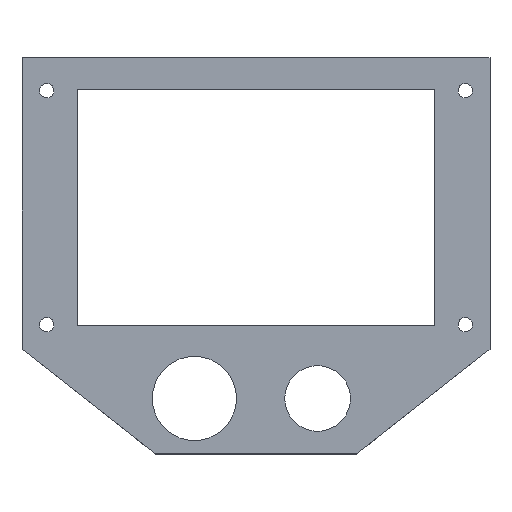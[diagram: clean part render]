
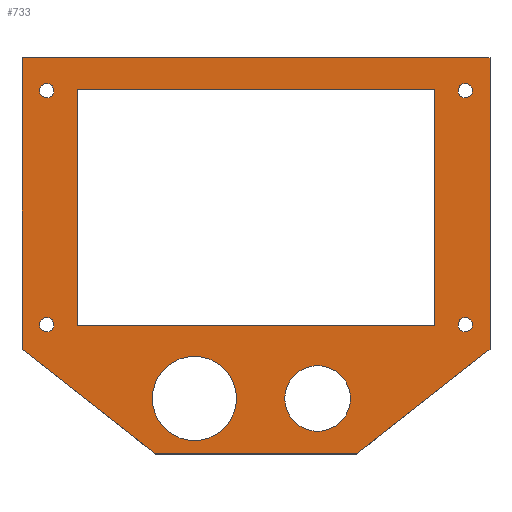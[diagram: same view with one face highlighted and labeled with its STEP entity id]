
A CAD part, top view. The second image highlights one B-rep face of the part: STEP entity #733.
In plain terms, the highlighted planar face has unit normal (0, 0, 1).
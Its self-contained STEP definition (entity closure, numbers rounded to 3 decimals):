
#41=FACE_BOUND('',#153,.T.);
#42=FACE_BOUND('',#154,.T.);
#43=FACE_BOUND('',#155,.T.);
#44=FACE_BOUND('',#156,.T.);
#45=FACE_BOUND('',#157,.T.);
#46=FACE_BOUND('',#158,.T.);
#47=FACE_BOUND('',#159,.T.);
#49=CIRCLE('',#758,10.25);
#51=CIRCLE('',#761,8.);
#56=CIRCLE('',#773,1.75);
#57=CIRCLE('',#775,1.75);
#58=CIRCLE('',#777,1.75);
#59=CIRCLE('',#779,1.75);
#103=FACE_OUTER_BOUND('',#152,.T.);
#152=EDGE_LOOP('',(#652,#653,#654,#655,#656,#657));
#153=EDGE_LOOP('',(#658));
#154=EDGE_LOOP('',(#659));
#155=EDGE_LOOP('',(#660,#661,#662,#663));
#156=EDGE_LOOP('',(#664));
#157=EDGE_LOOP('',(#665));
#158=EDGE_LOOP('',(#666));
#159=EDGE_LOOP('',(#667));
#186=LINE('',#1030,#270);
#190=LINE('',#1038,#274);
#219=LINE('',#1103,#303);
#228=LINE('',#1130,#312);
#231=LINE('',#1135,#315);
#233=LINE('',#1139,#317);
#234=LINE('',#1141,#318);
#236=LINE('',#1157,#320);
#237=LINE('',#1160,#321);
#239=LINE('',#1163,#323);
#270=VECTOR('',#832,10.);
#274=VECTOR('',#838,10.);
#303=VECTOR('',#901,10.);
#312=VECTOR('',#922,10.);
#315=VECTOR('',#927,10.);
#317=VECTOR('',#931,10.);
#318=VECTOR('',#934,10.);
#320=VECTOR('',#954,10.);
#321=VECTOR('',#957,10.);
#323=VECTOR('',#961,10.);
#348=VERTEX_POINT('',#1028);
#349=VERTEX_POINT('',#1029);
#351=VERTEX_POINT('',#1036);
#352=VERTEX_POINT('',#1037);
#369=VERTEX_POINT('',#1095);
#371=VERTEX_POINT('',#1100);
#382=VERTEX_POINT('',#1127);
#383=VERTEX_POINT('',#1129);
#384=VERTEX_POINT('',#1133);
#385=VERTEX_POINT('',#1137);
#386=VERTEX_POINT('',#1143);
#387=VERTEX_POINT('',#1146);
#388=VERTEX_POINT('',#1149);
#389=VERTEX_POINT('',#1152);
#390=VERTEX_POINT('',#1155);
#391=VERTEX_POINT('',#1159);
#418=EDGE_CURVE('',#348,#349,#186,.T.);
#422=EDGE_CURVE('',#351,#352,#190,.T.);
#452=EDGE_CURVE('',#369,#369,#49,.T.);
#454=EDGE_CURVE('',#371,#371,#51,.T.);
#455=EDGE_CURVE('',#352,#348,#219,.T.);
#468=EDGE_CURVE('',#383,#382,#228,.T.);
#471=EDGE_CURVE('',#382,#384,#231,.T.);
#473=EDGE_CURVE('',#384,#385,#233,.T.);
#474=EDGE_CURVE('',#385,#383,#234,.T.);
#475=EDGE_CURVE('',#386,#386,#56,.T.);
#476=EDGE_CURVE('',#387,#387,#57,.T.);
#477=EDGE_CURVE('',#388,#388,#58,.T.);
#478=EDGE_CURVE('',#389,#389,#59,.T.);
#480=EDGE_CURVE('',#349,#390,#236,.T.);
#481=EDGE_CURVE('',#391,#351,#237,.T.);
#483=EDGE_CURVE('',#390,#391,#239,.T.);
#652=ORIENTED_EDGE('',*,*,#483,.T.);
#653=ORIENTED_EDGE('',*,*,#481,.T.);
#654=ORIENTED_EDGE('',*,*,#422,.T.);
#655=ORIENTED_EDGE('',*,*,#455,.T.);
#656=ORIENTED_EDGE('',*,*,#418,.T.);
#657=ORIENTED_EDGE('',*,*,#480,.T.);
#658=ORIENTED_EDGE('',*,*,#454,.T.);
#659=ORIENTED_EDGE('',*,*,#452,.T.);
#660=ORIENTED_EDGE('',*,*,#468,.T.);
#661=ORIENTED_EDGE('',*,*,#471,.T.);
#662=ORIENTED_EDGE('',*,*,#473,.T.);
#663=ORIENTED_EDGE('',*,*,#474,.T.);
#664=ORIENTED_EDGE('',*,*,#475,.T.);
#665=ORIENTED_EDGE('',*,*,#476,.T.);
#666=ORIENTED_EDGE('',*,*,#477,.T.);
#667=ORIENTED_EDGE('',*,*,#478,.T.);
#697=PLANE('',#783);
#733=ADVANCED_FACE('',(#103,#41,#42,#43,#44,#45,#46,#47),#697,.T.);
#758=AXIS2_PLACEMENT_3D('',#1096,#891,#892);
#761=AXIS2_PLACEMENT_3D('',#1101,#897,#898);
#773=AXIS2_PLACEMENT_3D('',#1144,#937,#938);
#775=AXIS2_PLACEMENT_3D('',#1147,#941,#942);
#777=AXIS2_PLACEMENT_3D('',#1150,#945,#946);
#779=AXIS2_PLACEMENT_3D('',#1153,#949,#950);
#783=AXIS2_PLACEMENT_3D('',#1164,#962,#963);
#832=DIRECTION('',(0.787,0.617,0.));
#838=DIRECTION('',(0.787,-0.617,0.));
#891=DIRECTION('center_axis',(0.,0.,-1.));
#892=DIRECTION('ref_axis',(-1.,0.,0.));
#897=DIRECTION('center_axis',(0.,0.,-1.));
#898=DIRECTION('ref_axis',(-1.,0.,0.));
#901=DIRECTION('',(1.,0.,0.));
#922=DIRECTION('',(0.,-1.,0.));
#927=DIRECTION('',(-1.,0.,0.));
#931=DIRECTION('',(0.,1.,0.));
#934=DIRECTION('',(1.,0.,0.));
#937=DIRECTION('center_axis',(0.,0.,-1.));
#938=DIRECTION('ref_axis',(-1.,0.,0.));
#941=DIRECTION('center_axis',(0.,0.,-1.));
#942=DIRECTION('ref_axis',(-1.,0.,0.));
#945=DIRECTION('center_axis',(0.,0.,-1.));
#946=DIRECTION('ref_axis',(-1.,0.,0.));
#949=DIRECTION('center_axis',(0.,0.,-1.));
#950=DIRECTION('ref_axis',(-1.,0.,0.));
#954=DIRECTION('',(0.,1.,0.));
#957=DIRECTION('',(0.,-1.,0.));
#961=DIRECTION('',(-1.,0.,0.));
#962=DIRECTION('center_axis',(0.,0.,1.));
#963=DIRECTION('ref_axis',(1.,0.,0.));
#1028=CARTESIAN_POINT('',(79.5,-92.5,1.5));
#1029=CARTESIAN_POINT('',(112.,-67.,1.5));
#1030=CARTESIAN_POINT('',(79.5,-92.5,1.5));
#1036=CARTESIAN_POINT('',(-2.,-67.,1.5));
#1037=CARTESIAN_POINT('',(30.5,-92.5,1.5));
#1038=CARTESIAN_POINT('',(-2.,-67.,1.5));
#1095=CARTESIAN_POINT('',(50.25,-79.,1.5));
#1096=CARTESIAN_POINT('Origin',(40.,-79.,1.5));
#1100=CARTESIAN_POINT('',(78.,-79.,1.5));
#1101=CARTESIAN_POINT('Origin',(70.,-79.,1.5));
#1103=CARTESIAN_POINT('',(30.5,-92.5,1.5));
#1127=CARTESIAN_POINT('',(98.5,-61.2,1.5));
#1129=CARTESIAN_POINT('',(98.5,-3.8,1.5));
#1130=CARTESIAN_POINT('',(98.5,-46.35,1.5));
#1133=CARTESIAN_POINT('',(11.5,-61.2,1.5));
#1135=CARTESIAN_POINT('',(33.25,-61.2,1.5));
#1137=CARTESIAN_POINT('',(11.5,-3.8,1.5));
#1139=CARTESIAN_POINT('',(11.5,-17.65,1.5));
#1141=CARTESIAN_POINT('',(76.75,-3.8,1.5));
#1143=CARTESIAN_POINT('',(107.75,-4.,1.5));
#1144=CARTESIAN_POINT('Origin',(106.,-4.,1.5));
#1146=CARTESIAN_POINT('',(107.75,-61.,1.5));
#1147=CARTESIAN_POINT('Origin',(106.,-61.,1.5));
#1149=CARTESIAN_POINT('',(5.75,-61.,1.5));
#1150=CARTESIAN_POINT('Origin',(4.,-61.,1.5));
#1152=CARTESIAN_POINT('',(5.75,-4.,1.5));
#1153=CARTESIAN_POINT('Origin',(4.,-4.,1.5));
#1155=CARTESIAN_POINT('',(112.,4.,1.5));
#1157=CARTESIAN_POINT('',(112.,4.,1.5));
#1159=CARTESIAN_POINT('',(-2.,4.,1.5));
#1160=CARTESIAN_POINT('',(-2.,-67.,1.5));
#1163=CARTESIAN_POINT('',(-2.,4.,1.5));
#1164=CARTESIAN_POINT('Origin',(55.,-31.5,1.5));
